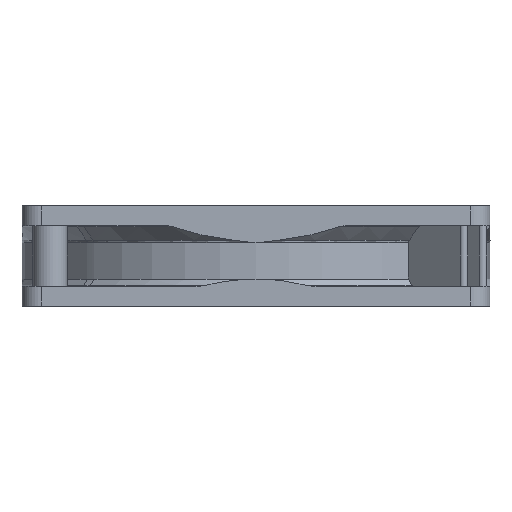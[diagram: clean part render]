
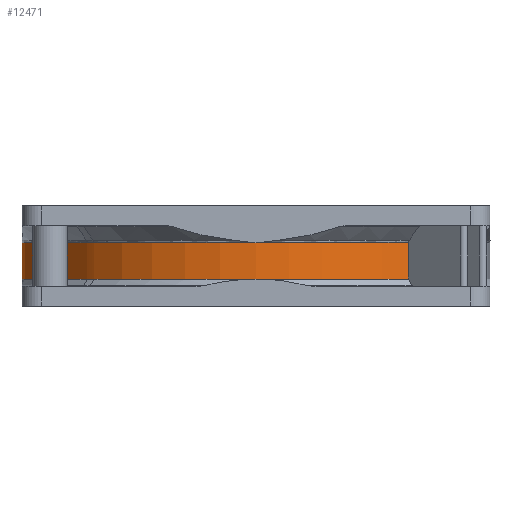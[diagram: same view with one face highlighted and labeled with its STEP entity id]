
A CAD part, front view. The second image highlights one B-rep face of the part: STEP entity #12471.
In plain terms, the highlighted cylindrical face has radius 59.5 mm (diameter 119 mm), a partial arc.
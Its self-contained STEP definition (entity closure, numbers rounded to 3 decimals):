
#7 = DIRECTION ( 'NONE',  ( 0., 0., -1. ) ) ;
#123 = AXIS2_PLACEMENT_3D ( 'NONE', #11536, #3050, #12964 ) ;
#195 = DIRECTION ( 'NONE',  ( -1., 0., 0. ) ) ;
#335 = CIRCLE ( 'NONE', #9651, 59.5 ) ;
#352 = CIRCLE ( 'NONE', #2767, 59.5 ) ;
#718 = FACE_OUTER_BOUND ( 'NONE', #5540, .T. ) ;
#766 = DIRECTION ( 'NONE',  ( 0., 0., 1. ) ) ;
#893 = DIRECTION ( 'NONE',  ( 0., 0., -1. ) ) ;
#1145 = DIRECTION ( 'NONE',  ( -1., 0., 0. ) ) ;
#1534 = DIRECTION ( 'NONE',  ( 0., 0., -1. ) ) ;
#1695 = EDGE_CURVE ( 'NONE', #6910, #5953, #10456, .T. ) ;
#2033 = EDGE_CURVE ( 'NONE', #17858, #3274, #9786, .T. ) ;
#2344 = ORIENTED_EDGE ( 'NONE', *, *, #5724, .T. ) ;
#2671 = CIRCLE ( 'NONE', #15725, 59.5 ) ;
#2767 = AXIS2_PLACEMENT_3D ( 'NONE', #3465, #13374, #4868 ) ;
#3050 = DIRECTION ( 'NONE',  ( 0., 0., -1. ) ) ;
#3262 = CIRCLE ( 'NONE', #15955, 59.5 ) ;
#3274 = VERTEX_POINT ( 'NONE', #14286 ) ;
#3465 = CARTESIAN_POINT ( 'NONE',  ( 0., 0., 3.336 ) ) ;
#3538 = CARTESIAN_POINT ( 'NONE',  ( -42.913, -41.216, 3.336 ) ) ;
#4227 = EDGE_CURVE ( 'NONE', #4464, #15429, #18021, .T. ) ;
#4377 = CARTESIAN_POINT ( 'NONE',  ( -59.5, 0., -1.257 ) ) ;
#4464 = VERTEX_POINT ( 'NONE', #17974 ) ;
#4868 = DIRECTION ( 'NONE',  ( -1., 0., 0. ) ) ;
#5482 = CARTESIAN_POINT ( 'NONE',  ( 0., 0., 3.336 ) ) ;
#5540 = EDGE_LOOP ( 'NONE', ( #18073, #17145, #5911, #14034, #11591, #9784, #11580, #2344, #16098, #15671 ) ) ;
#5724 = EDGE_CURVE ( 'NONE', #18150, #15003, #6139, .T. ) ;
#5762 = CARTESIAN_POINT ( 'NONE',  ( -41.216, -42.913, 3.336 ) ) ;
#5911 = ORIENTED_EDGE ( 'NONE', *, *, #14576, .T. ) ;
#5953 = VERTEX_POINT ( 'NONE', #3538 ) ;
#6086 = DIRECTION ( 'NONE',  ( 0., 0., 1. ) ) ;
#6139 = CIRCLE ( 'NONE', #123, 59.5 ) ;
#6212 = EDGE_CURVE ( 'NONE', #15003, #6910, #3262, .T. ) ;
#6505 = VERTEX_POINT ( 'NONE', #11635 ) ;
#6609 = CARTESIAN_POINT ( 'NONE',  ( 0., 0., 3.336 ) ) ;
#6908 = DIRECTION ( 'NONE',  ( -1., 0., 0. ) ) ;
#6910 = VERTEX_POINT ( 'NONE', #5762 ) ;
#7047 = CARTESIAN_POINT ( 'NONE',  ( 0., 0., -1.257 ) ) ;
#7499 = EDGE_CURVE ( 'NONE', #5953, #4464, #352, .T. ) ;
#8031 = DIRECTION ( 'NONE',  ( -1., 0., 0. ) ) ;
#8171 = EDGE_CURVE ( 'NONE', #17858, #6505, #335, .T. ) ;
#8646 = DIRECTION ( 'NONE',  ( 0., 0., 1. ) ) ;
#8735 = VECTOR ( 'NONE', #6086, 1000. ) ;
#9237 = CARTESIAN_POINT ( 'NONE',  ( 0., 0., -5.85 ) ) ;
#9374 = CARTESIAN_POINT ( 'NONE',  ( 0., 0., -5.85 ) ) ;
#9628 = DIRECTION ( 'NONE',  ( 0., 0., 1. ) ) ;
#9651 = AXIS2_PLACEMENT_3D ( 'NONE', #9374, #893, #10814 ) ;
#9784 = ORIENTED_EDGE ( 'NONE', *, *, #17195, .T. ) ;
#9786 = CIRCLE ( 'NONE', #14238, 59.5 ) ;
#10003 = EDGE_CURVE ( 'NONE', #15874, #18150, #16826, .T. ) ;
#10376 = CIRCLE ( 'NONE', #14436, 59.5 ) ;
#10456 = CIRCLE ( 'NONE', #10766, 59.5 ) ;
#10690 = DIRECTION ( 'NONE',  ( -1., 0., 0. ) ) ;
#10766 = AXIS2_PLACEMENT_3D ( 'NONE', #5482, #15449, #6908 ) ;
#10814 = DIRECTION ( 'NONE',  ( -1., 0., 0. ) ) ;
#10847 = CARTESIAN_POINT ( 'NONE',  ( 0., -59.5, 3.336 ) ) ;
#11536 = CARTESIAN_POINT ( 'NONE',  ( 0., 0., 3.336 ) ) ;
#11580 = ORIENTED_EDGE ( 'NONE', *, *, #10003, .T. ) ;
#11591 = ORIENTED_EDGE ( 'NONE', *, *, #2033, .T. ) ;
#11635 = CARTESIAN_POINT ( 'NONE',  ( -42.913, -41.216, -5.85 ) ) ;
#12004 = CARTESIAN_POINT ( 'NONE',  ( -59.5, 0., -5.85 ) ) ;
#12471 = ADVANCED_FACE ( 'NONE', ( #718 ), #14931, .T. ) ;
#12964 = DIRECTION ( 'NONE',  ( -1., 0., 0. ) ) ;
#13374 = DIRECTION ( 'NONE',  ( 0., 0., -1. ) ) ;
#14034 = ORIENTED_EDGE ( 'NONE', *, *, #8171, .F. ) ;
#14147 = DIRECTION ( 'NONE',  ( -1., 0., 0. ) ) ;
#14238 = AXIS2_PLACEMENT_3D ( 'NONE', #9237, #766, #10690 ) ;
#14286 = CARTESIAN_POINT ( 'NONE',  ( 0., -59.5, -5.85 ) ) ;
#14379 = AXIS2_PLACEMENT_3D ( 'NONE', #7047, #7, #14147 ) ;
#14436 = AXIS2_PLACEMENT_3D ( 'NONE', #17249, #8646, #195 ) ;
#14576 = EDGE_CURVE ( 'NONE', #15429, #6505, #2671, .T. ) ;
#14607 = CARTESIAN_POINT ( 'NONE',  ( 38.77, -45.134, -500000. ) ) ;
#14931 = CYLINDRICAL_SURFACE ( 'NONE', #14379, 59.5 ) ;
#15003 = VERTEX_POINT ( 'NONE', #10847 ) ;
#15429 = VERTEX_POINT ( 'NONE', #12004 ) ;
#15449 = DIRECTION ( 'NONE',  ( 0., 0., -1. ) ) ;
#15671 = ORIENTED_EDGE ( 'NONE', *, *, #1695, .T. ) ;
#15725 = AXIS2_PLACEMENT_3D ( 'NONE', #18214, #9628, #1145 ) ;
#15874 = VERTEX_POINT ( 'NONE', #18090 ) ;
#15955 = AXIS2_PLACEMENT_3D ( 'NONE', #6609, #16598, #8031 ) ;
#16098 = ORIENTED_EDGE ( 'NONE', *, *, #6212, .T. ) ;
#16598 = DIRECTION ( 'NONE',  ( 0., 0., -1. ) ) ;
#16826 = LINE ( 'NONE', #14607, #8735 ) ;
#17145 = ORIENTED_EDGE ( 'NONE', *, *, #4227, .T. ) ;
#17195 = EDGE_CURVE ( 'NONE', #3274, #15874, #10376, .T. ) ;
#17249 = CARTESIAN_POINT ( 'NONE',  ( 0., 0., -5.85 ) ) ;
#17565 = VECTOR ( 'NONE', #1534, 1000. ) ;
#17608 = CARTESIAN_POINT ( 'NONE',  ( -41.216, -42.913, -5.85 ) ) ;
#17858 = VERTEX_POINT ( 'NONE', #17608 ) ;
#17974 = CARTESIAN_POINT ( 'NONE',  ( -59.5, 0., 3.336 ) ) ;
#18021 = LINE ( 'NONE', #4377, #17565 ) ;
#18073 = ORIENTED_EDGE ( 'NONE', *, *, #7499, .T. ) ;
#18090 = CARTESIAN_POINT ( 'NONE',  ( 38.77, -45.134, -5.85 ) ) ;
#18150 = VERTEX_POINT ( 'NONE', #18305 ) ;
#18214 = CARTESIAN_POINT ( 'NONE',  ( 0., 0., -5.85 ) ) ;
#18305 = CARTESIAN_POINT ( 'NONE',  ( 38.77, -45.134, 3.336 ) ) ;
